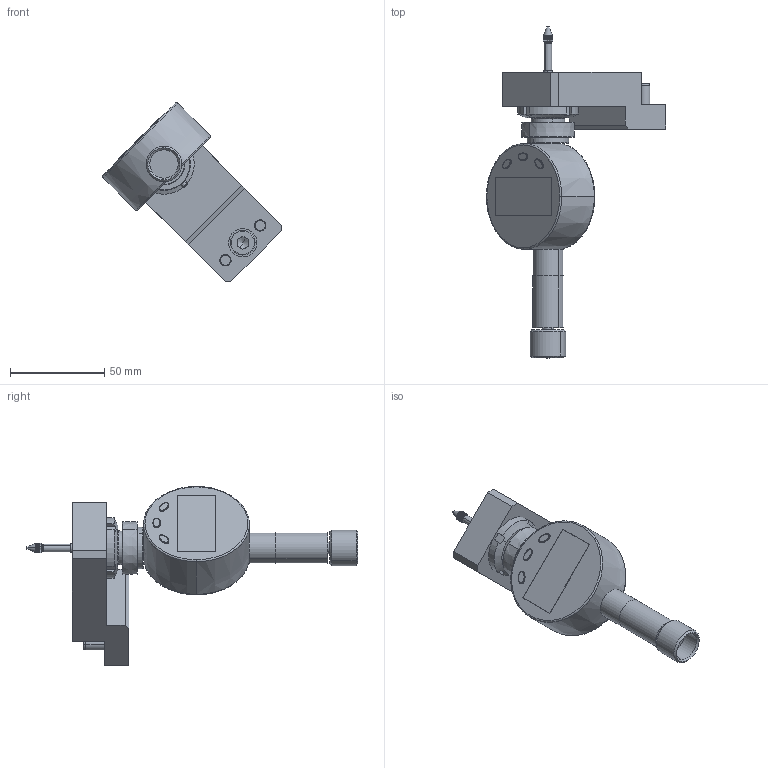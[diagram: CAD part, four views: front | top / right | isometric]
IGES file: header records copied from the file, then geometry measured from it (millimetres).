
Start section: START RECORD GO HERE.
Global section: file name: S0003_Messuhr_steckbar_gekroeft_Spitze.igs; native system: IBM CATIA IGES - CATIA Version 5 Release 19 ; preprocessor: CATIA Version 5 Release 19 ; author: Administrator; organization: SCHROPPFSC; date: 20101107.184543; units: millimetre
Bounding box: 94.79 x 175.7 x 94.79 mm (x, y, z)
Surface area: 45807.3 mm2 (no closed solid volume)
Topology: 0 solids, 0 shells, 597 faces, 2788 edges, 2784 vertices
Faces by surface type: plane 308, revolution 269, bspline 14, extrusion 6
